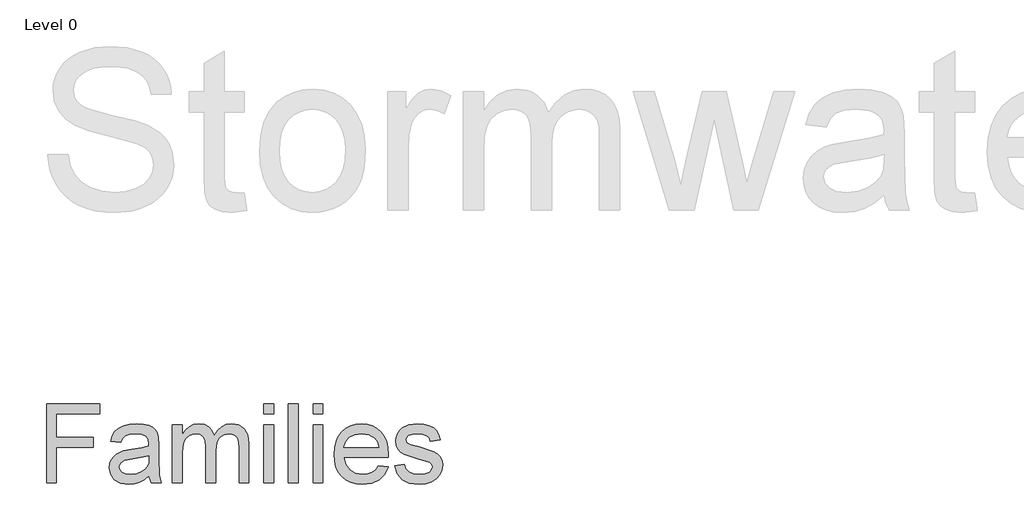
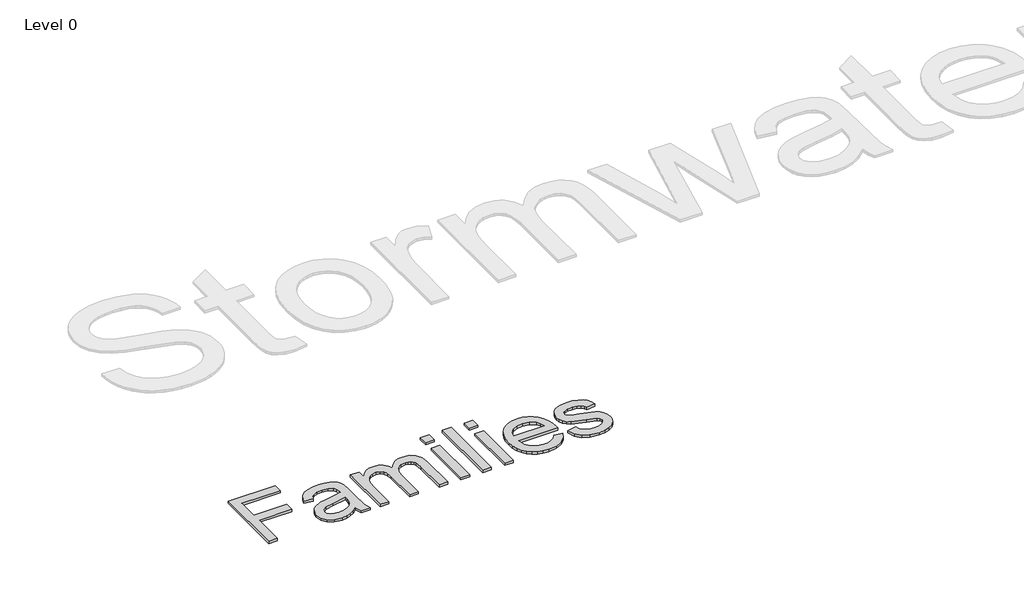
# One storey, part 7 of 10: 1 proxy.
"""IFC4 building model written with IfcOpenShell, lengths in millimetres."""

from ifc_helpers import new_model, si_unit, origin, origin_with_axes, place, context, project, spatial, polyline, outline, extrude, element, save

model = new_model("IFC4")

# Units and contexts
model_context = context("Model", 3, world=origin())
ifc_project = project(units=[si_unit("LENGTHUNIT", "METRE", prefix="MILLI")], contexts=[model_context])

# Site, building, storey
site = spatial("IfcSite", under=ifc_project)
building = spatial("IfcBuilding", under=site)
storey = spatial("IfcBuildingStorey", under=building, Name="Level 0", Elevation=0.0)

# Proxy
placement = place(None, origin())
element("IfcBuildingElementProxy", 1, Name="300mm Arial", ObjectType="300mm Arial", at=placement, inside=storey, context=model_context, shape_type="SweptSolid", body=[
    extrude(outline(polyline([(-15382.9698324, 11631.8762937), (-15382.9698324, 11927.2609091), (-15184.5082939, 11927.2609091), (-15184.5082939, 11890.3378322), (-15346.0467555, 11890.3378322), (-15346.0467555, 11802.6455245), (-15207.585217, 11802.6455245), (-15207.585217, 11765.7224476), (-15346.0467555, 11765.7224476), (-15346.0467555, 11631.8762937), (-15382.9698324, 11631.8762937)])), origin_with_axes(), (0.0, 0.0, 1.0), 10.0),
    extrude(outline(polyline([(-14999.8929093, 11659.5686014), (-15017.5341353, 11644.4423995), (-15035.6981978, 11634.5445629), (-15054.7997603, 11629.0818226), (-15075.2534863, 11627.2609091), (-15106.1098564, 11631.6419187), (-15128.8712747, 11644.7849476), (-15142.9067314, 11664.7428802), (-15147.585217, 11689.5686014), (-15145.8183901, 11704.8750918), (-15140.5179093, 11718.7753322), (-15132.3418276, 11730.6743706), (-15121.9481978, 11739.9772552), (-15096.0948324, 11752.0926399), (-15064.147717, 11757.6455245), (-15026.3953132, 11763.4868706), (-15000.1092555, 11770.3378322), (-14999.8929093, 11778.558986), (-15002.4349766, 11795.0373514), (-15010.0611786, 11805.8186014), (-15027.116467, 11813.8234091), (-15050.8784863, 11816.4916783), (-15072.8736786, 11814.715837), (-15088.2342555, 11809.3883129), (-15098.7090151, 11799.5355485), (-15106.0467555, 11784.183986), (-15142.9698324, 11788.7993706), (-15136.5605776, 11808.9916783), (-15126.9962747, 11824.8570629), (-15113.3844959, 11836.9904764), (-15094.8328132, 11845.9868706), (-15072.1435103, 11851.5577841), (-15046.1188709, 11853.4147552), (-15021.1579334, 11851.7741302), (-15001.3712747, 11846.8522552), (-14986.4524045, 11839.4514139), (-14976.0948324, 11830.3738899), (-14969.225842, 11819.1509331), (-14964.772717, 11805.3137937), (-14962.9698324, 11773.0061014), (-14962.9698324, 11727.0686014), (-14961.0948324, 11662.9219668), (-14953.7390632, 11631.8762937), (-14990.6621401, 11631.8762937), (-14999.8929093, 11659.5686014)]), holes=[polyline([(-14999.8929093, 11733.4147552), (-15059.460217, 11722.0926399), (-15091.2270439, 11716.1070629), (-15105.6140632, 11706.371486), (-15110.6621401, 11692.1647552), (-15107.9127411, 11681.1851879), (-15099.6645439, 11672.1887937), (-15086.0978372, 11666.1851879), (-15067.3929093, 11664.183986), (-15047.5611786, 11666.3925197), (-15030.0371401, 11673.0181206), (-15015.8304093, 11682.7807408), (-15005.9506016, 11694.4003322), (-15001.569592, 11706.371486), (-15000.1092555, 11722.9580245), (-14999.8929093, 11733.4147552)])]), origin_with_axes(), (0.0, 0.0, 1.0), 10.0),
    extrude(outline(polyline([(-14912.2006016, 11631.8762937), (-14912.2006016, 11848.7993706), (-14875.2775247, 11848.7993706), (-14875.2775247, 11813.1022552), (-14864.1717555, 11829.4994908), (-14849.8929093, 11842.3450437), (-14832.9277651, 11850.6473274), (-14813.7631016, 11853.4147552), (-14793.2282459, 11850.5932408), (-14776.7679093, 11842.1286976), (-14764.4722363, 11828.5800197), (-14756.4313709, 11810.5061014), (-14742.9728372, 11829.2786375), (-14727.6212747, 11842.6875918), (-14710.3766834, 11850.7329644), (-14691.2390632, 11853.4147552), (-14663.4836545, 11848.9526158), (-14642.9578132, 11835.5661976), (-14630.2745199, 11812.8949235), (-14626.0467555, 11780.5782168), (-14626.0467555, 11631.8762937), (-14662.9698324, 11631.8762937), (-14662.9698324, 11764.7128322), (-14666.3953132, 11795.5421591), (-14671.2090151, 11804.0427601), (-14678.7991593, 11810.7224476), (-14688.5617795, 11815.0493706), (-14699.8929093, 11816.4916783), (-14719.8959141, 11812.7957649), (-14736.2030055, 11801.7080245), (-14747.0473564, 11782.4712456), (-14750.6621401, 11754.3282168), (-14750.6621401, 11631.8762937), (-14787.585217, 11631.8762937), (-14787.585217, 11768.8234091), (-14789.7216353, 11789.7008129), (-14796.1308901, 11804.5926399), (-14807.4079334, 11813.5169187), (-14824.147717, 11816.4916783), (-14838.3724766, 11814.5085052), (-14851.4794478, 11808.558986), (-14862.2967555, 11798.7873514), (-14869.6525247, 11785.3378322), (-14873.8712747, 11766.6779764), (-14875.2775247, 11741.2753322), (-14875.2775247, 11631.8762937), (-14912.2006016, 11631.8762937)])), origin_with_axes(), (0.0, 0.0, 1.0), 10.0),
    extrude(outline(polyline([(-14570.6621401, 11890.3378322), (-14570.6621401, 11927.2609091), (-14533.7390632, 11927.2609091), (-14533.7390632, 11890.3378322), (-14570.6621401, 11890.3378322)])), origin_with_axes(), (0.0, 0.0, 1.0), 10.0),
    extrude(outline(polyline([(-14570.6621401, 11631.8762937), (-14570.6621401, 11848.7993706), (-14533.7390632, 11848.7993706), (-14533.7390632, 11631.8762937), (-14570.6621401, 11631.8762937)])), origin_with_axes(), (0.0, 0.0, 1.0), 10.0),
    extrude(outline(polyline([(-14478.3544478, 11631.8762937), (-14478.3544478, 11927.2609091), (-14441.4313709, 11927.2609091), (-14441.4313709, 11631.8762937), (-14478.3544478, 11631.8762937)])), origin_with_axes(), (0.0, 0.0, 1.0), 10.0),
    extrude(outline(polyline([(-14386.0467555, 11890.3378322), (-14386.0467555, 11927.2609091), (-14349.1236786, 11927.2609091), (-14349.1236786, 11890.3378322), (-14386.0467555, 11890.3378322)])), origin_with_axes(), (0.0, 0.0, 1.0), 10.0),
    extrude(outline(polyline([(-14386.0467555, 11631.8762937), (-14386.0467555, 11848.7993706), (-14349.1236786, 11848.7993706), (-14349.1236786, 11631.8762937), (-14386.0467555, 11631.8762937)])), origin_with_axes(), (0.0, 0.0, 1.0), 10.0),
    extrude(outline(polyline([(-14141.8640632, 11696.4916783), (-14105.6621401, 11691.8762937), (-14118.7060103, 11664.5986495), (-14139.5203132, 11644.2080245), (-14167.6362988, 11631.4976879), (-14202.585217, 11627.2609091), (-14225.4953733, 11629.0885834), (-14245.9085343, 11634.5716062), (-14263.8247002, 11643.7099776), (-14279.2438709, 11656.5036976), (-14291.6432098, 11672.5966964), (-14300.4998805, 11691.6329043), (-14305.8138829, 11713.6123214), (-14307.585217, 11738.5349476), (-14305.795854, 11764.3026759), (-14300.4277651, 11787.0145149), (-14291.4809502, 11806.6704644), (-14278.9554093, 11823.2705245), (-14263.5768036, 11836.4586254), (-14246.0707939, 11845.8786976), (-14226.4373805, 11851.5307408), (-14204.6765632, 11853.4147552), (-14183.6166173, 11851.535248), (-14164.5713949, 11845.8967264), (-14147.5408961, 11836.4991903), (-14132.5251209, 11823.3426399), (-14120.2677591, 11806.7786375), (-14111.5125007, 11787.1587456), (-14106.2593456, 11764.4829644), (-14104.5082939, 11738.7512937), (-14104.7246401, 11728.7993706), (-14270.6621401, 11728.7993706), (-14264.2709141, 11701.1611495), (-14249.4241593, 11680.8426399), (-14227.9968757, 11668.3486495), (-14201.8640632, 11664.183986), (-14182.2126209, 11666.1130726), (-14165.6621401, 11671.9003322), (-14152.2126209, 11681.9063418), (-14141.8640632, 11696.4916783)]), holes=[polyline([(-14270.6621401, 11765.7224476), (-14141.4313709, 11765.7224476), (-14146.4253613, 11785.2296591), (-14156.2150247, 11799.183986), (-14177.741467, 11812.1647552), (-14204.8207939, 11816.4916783), (-14229.7096161, 11813.0391543), (-14250.2895439, 11802.6815822), (-14264.5954334, 11786.5367504), (-14270.6621401, 11765.7224476)])]), origin_with_axes(), (0.0, 0.0, 1.0), 10.0),
    extrude(outline(polyline([(-14081.4313709, 11696.4916783), (-14044.5082939, 11701.1070629), (-14038.6849766, 11685.3137937), (-14027.4169478, 11673.7032168), (-14010.632092, 11666.5637937), (-13988.2582939, 11664.183986), (-13966.1549286, 11666.3654764), (-13950.6140632, 11672.9099476), (-13941.4193516, 11682.3931206), (-13938.3544478, 11693.3907168), (-13941.4373805, 11702.8017745), (-13950.6861786, 11709.9772552), (-13988.6909863, 11720.5061014), (-14044.2919478, 11738.5710052), (-14058.3634622, 11747.6485293), (-14068.5587747, 11759.6647552), (-14074.7516834, 11773.8534572), (-14076.8159863, 11789.4484091), (-14075.1573324, 11803.7542985), (-14070.1813709, 11816.9604283), (-14062.3388228, 11828.543962), (-14052.0804093, 11837.9820629), (-14028.6068516, 11848.9075437), (-13996.8400247, 11853.4147552), (-13972.8075728, 11851.6028562), (-13951.9121401, 11846.1671591), (-13935.1092555, 11837.6395149), (-13923.3544478, 11826.5517745), (-13915.5659863, 11812.0836254), (-13910.6621401, 11793.4147552), (-13947.585217, 11788.7993706), (-13952.2456738, 11800.418962), (-13961.4674286, 11809.1719668), (-13975.3406257, 11814.6617504), (-13993.9554093, 11816.4916783), (-14015.1573324, 11814.7428802), (-14029.2919478, 11809.496486), (-14037.2426689, 11801.9243706), (-14039.8929093, 11793.1984091), (-14035.4938709, 11782.4532168), (-14021.7198324, 11774.3041783), (-13989.9169478, 11766.4436014), (-13935.7222363, 11749.0637937), (-13921.4073324, 11740.7524956), (-13910.553967, 11729.3762937), (-13903.7120199, 11714.8991302), (-13901.4313709, 11697.2849476), (-13904.1086545, 11679.0758129), (-13912.1405055, 11661.9484091), (-13925.2204334, 11647.2458851), (-13943.0419478, 11636.3113899), (-13964.5683901, 11629.5235293), (-13988.7631016, 11627.2609091), (-14025.9926689, 11631.6238899), (-14053.1621401, 11644.7128322), (-14071.2991593, 11666.3835052), (-14081.4313709, 11696.4916783)])), origin_with_axes(), (0.0, 0.0, 1.0), 10.0),
])

save(model, "model.ifc")
